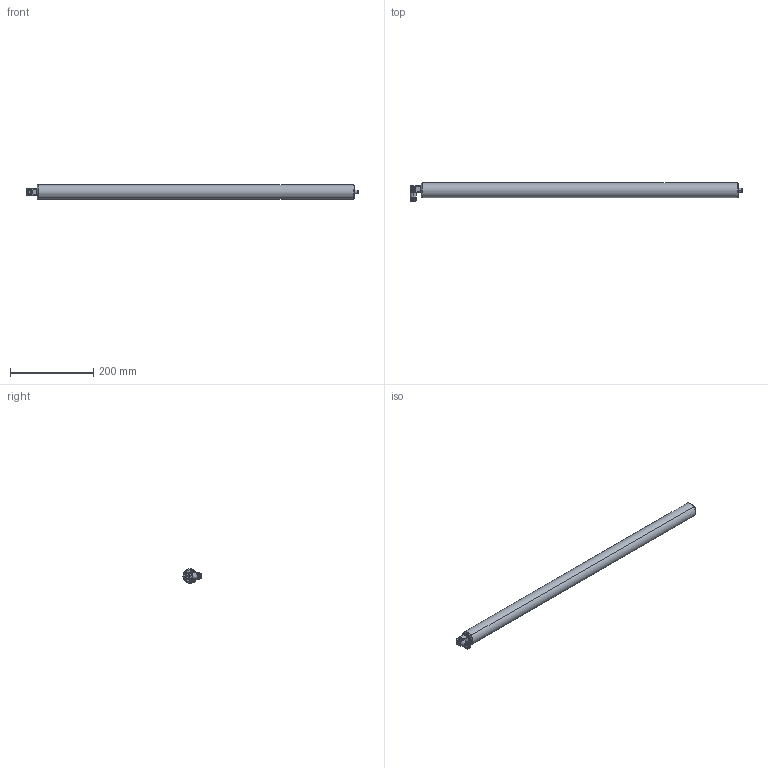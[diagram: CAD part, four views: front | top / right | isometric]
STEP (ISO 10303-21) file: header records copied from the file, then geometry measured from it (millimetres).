
FILE_DESCRIPTION (( 'STEP AP214' ), '1' );
FILE_NAME ('P101-600AJ.STEP', '2025-04-10T10:28:02', ( '' ), ( '' ), 'SwSTEP 2.0', 'SolidWorks 2023', '' );
FILE_SCHEMA (( 'AUTOMOTIVE_DESIGN' ));
Length unit declared in the file: millimetre
Products named in the file (1): P101-600AJ
Bounding box: 799 x 43.42 x 35 mm (x, y, z)
Surface area: 109179.1 mm2 (no closed solid volume)
Topology: 0 solids, 97 shells, 363 faces, 1954 edges, 1679 vertices
Faces by surface type: plane 282, cylinder 45, torus 18, cone 10, sphere 4, bspline 4
Entity records: 19303 total; most frequent: CARTESIAN_POINT 4620, DIRECTION 2844, ORIENTED_EDGE 2374, EDGE_CURVE 1948, VERTEX_POINT 1679, VECTOR 1660, LINE 1660, AXIS2_PLACEMENT_3D 592
